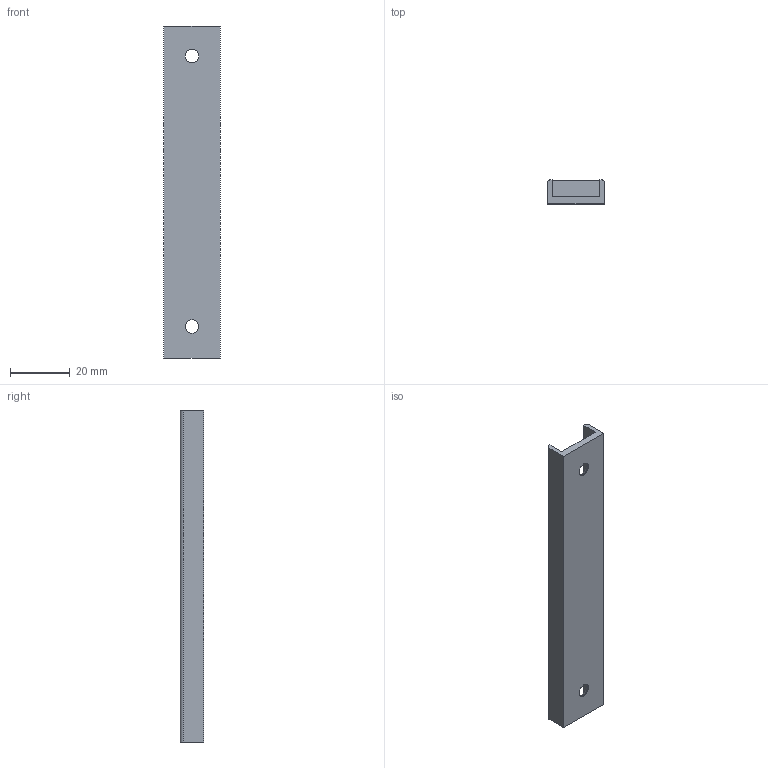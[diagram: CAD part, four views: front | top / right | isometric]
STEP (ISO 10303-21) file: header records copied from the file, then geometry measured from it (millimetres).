
FILE_DESCRIPTION(/* description */ (''),/* implementation_level */ '2;1');
FILE_NAME(/* name */ 'H:\3D_KONSTRUKCE\ROLETA+CHLEBNIK\ROLETA_RENDER\end_guide.stp',/* time_stamp */ '2016-01-21T11:04:47+01:00',/* author */ ('uidn2323'),/* organization */ (''),/* preprocessor_version */ 'ST-DEVELOPER v15.6',/* originating_system */ 'Autodesk Inventor 2015',/* authorisation */ '');
FILE_SCHEMA (('AUTOMOTIVE_DESIGN { 1 0 10303 214 3 1 1 }'));
Length unit declared in the file: millimetre
Products named in the file (1): lyžina_MIR
Bounding box: 19 x 8 x 111 mm (x, y, z)
Volume: 6991.5 mm3; surface area: 7396.2 mm2
Topology: 1 solids, 1 shells, 16 faces, 40 edges, 26 vertices
Faces by surface type: plane 10, cylinder 4, cone 2
Full cylindrical faces by diameter (mm): 4.5 x2
Entity records: 490 total; most frequent: DIRECTION 80, CARTESIAN_POINT 79, ORIENTED_EDGE 72, EDGE_CURVE 36, AXIS2_PLACEMENT_3D 27, LINE 26, VECTOR 26, VERTEX_POINT 26
